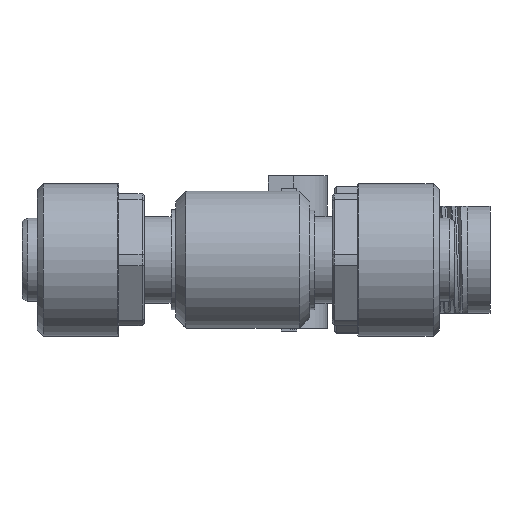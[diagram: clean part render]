
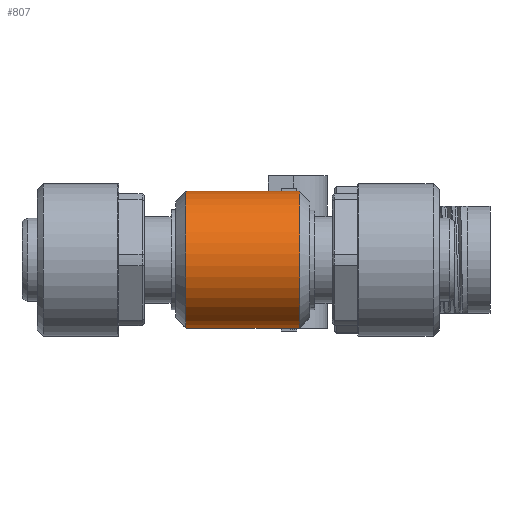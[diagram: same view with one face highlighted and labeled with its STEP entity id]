
A CAD part, left-side view. The second image highlights one B-rep face of the part: STEP entity #807.
In plain terms, the highlighted cylindrical face has radius 6.75 mm (diameter 13.5 mm), a partial arc.
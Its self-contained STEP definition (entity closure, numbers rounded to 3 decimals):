
#204=ELLIPSE('',#7572,9.546,6.75);
#205=ELLIPSE('',#7580,9.546,6.75);
#207=ELLIPSE('',#7587,9.546,6.75);
#209=ELLIPSE('',#7594,9.546,6.75);
#807=ADVANCED_FACE('',(#1297),#1052,.T.);
#1052=CYLINDRICAL_SURFACE('',#7595,6.75);
#1297=FACE_OUTER_BOUND('',#1734,.T.);
#1734=EDGE_LOOP('',(#3700,#3701,#3702,#3703,#3704,#3705,#3706,#3707,#3708,
#3709,#3710,#3711,#3712,#3713,#3714,#3715,#3716,#3717,#3718,#3719));
#2367=CIRCLE('',#7591,6.75);
#2368=CIRCLE('',#7593,6.75);
#3700=ORIENTED_EDGE('',*,*,#5593,.T.);
#3701=ORIENTED_EDGE('',*,*,#5955,.T.);
#3702=ORIENTED_EDGE('',*,*,#5970,.F.);
#3703=ORIENTED_EDGE('',*,*,#5943,.T.);
#3704=ORIENTED_EDGE('',*,*,#5589,.T.);
#3705=ORIENTED_EDGE('',*,*,#5935,.T.);
#3706=ORIENTED_EDGE('',*,*,#5585,.T.);
#3707=ORIENTED_EDGE('',*,*,#5971,.T.);
#3708=ORIENTED_EDGE('',*,*,#5581,.T.);
#3709=ORIENTED_EDGE('',*,*,#5972,.T.);
#3710=ORIENTED_EDGE('',*,*,#5577,.T.);
#3711=ORIENTED_EDGE('',*,*,#5963,.T.);
#3712=ORIENTED_EDGE('',*,*,#5969,.F.);
#3713=ORIENTED_EDGE('',*,*,#5973,.T.);
#3714=ORIENTED_EDGE('',*,*,#5573,.T.);
#3715=ORIENTED_EDGE('',*,*,#5974,.T.);
#3716=ORIENTED_EDGE('',*,*,#5569,.T.);
#3717=ORIENTED_EDGE('',*,*,#5975,.T.);
#3718=ORIENTED_EDGE('',*,*,#5565,.T.);
#3719=ORIENTED_EDGE('',*,*,#5976,.T.);
#4784=VERTEX_POINT('',#11202);
#4785=VERTEX_POINT('',#11203);
#4788=VERTEX_POINT('',#11211);
#4789=VERTEX_POINT('',#11212);
#4792=VERTEX_POINT('',#11220);
#4793=VERTEX_POINT('',#11221);
#4796=VERTEX_POINT('',#11229);
#4797=VERTEX_POINT('',#11230);
#4800=VERTEX_POINT('',#11238);
#4801=VERTEX_POINT('',#11239);
#4804=VERTEX_POINT('',#11247);
#4805=VERTEX_POINT('',#11248);
#4808=VERTEX_POINT('',#11256);
#4809=VERTEX_POINT('',#11257);
#4812=VERTEX_POINT('',#11265);
#4813=VERTEX_POINT('',#11266);
#5067=VERTEX_POINT('',#12526);
#5072=VERTEX_POINT('',#12553);
#5076=VERTEX_POINT('',#12577);
#5079=VERTEX_POINT('',#12589);
#5565=EDGE_CURVE('',#4784,#4785,#6385,.T.);
#5569=EDGE_CURVE('',#4788,#4789,#6387,.T.);
#5573=EDGE_CURVE('',#4792,#4793,#6389,.T.);
#5577=EDGE_CURVE('',#4796,#4797,#6391,.T.);
#5581=EDGE_CURVE('',#4800,#4801,#6393,.T.);
#5585=EDGE_CURVE('',#4804,#4805,#6395,.T.);
#5589=EDGE_CURVE('',#4808,#4809,#6397,.T.);
#5593=EDGE_CURVE('',#4812,#4813,#6399,.T.);
#5935=EDGE_CURVE('',#4809,#4804,#6596,.T.);
#5943=EDGE_CURVE('',#5067,#4808,#204,.T.);
#5955=EDGE_CURVE('',#4813,#5072,#205,.T.);
#5963=EDGE_CURVE('',#4797,#5076,#207,.T.);
#5969=EDGE_CURVE('',#5079,#5076,#2367,.T.);
#5970=EDGE_CURVE('',#5067,#5072,#2368,.T.);
#5971=EDGE_CURVE('',#4805,#4800,#6612,.T.);
#5972=EDGE_CURVE('',#4801,#4796,#6613,.T.);
#5973=EDGE_CURVE('',#5079,#4792,#209,.T.);
#5974=EDGE_CURVE('',#4793,#4788,#6614,.T.);
#5975=EDGE_CURVE('',#4789,#4784,#6615,.T.);
#5976=EDGE_CURVE('',#4785,#4812,#6616,.T.);
#6385=LINE('',#11201,#6855);
#6387=LINE('',#11210,#6857);
#6389=LINE('',#11219,#6859);
#6391=LINE('',#11228,#6861);
#6393=LINE('',#11237,#6863);
#6395=LINE('',#11246,#6865);
#6397=LINE('',#11255,#6867);
#6399=LINE('',#11264,#6869);
#6596=LINE('',#12513,#7066);
#6612=LINE('',#12593,#7082);
#6613=LINE('',#12594,#7083);
#6614=LINE('',#12596,#7084);
#6615=LINE('',#12597,#7085);
#6616=LINE('',#12598,#7086);
#6855=VECTOR('',#8418,1.);
#6857=VECTOR('',#8426,1.);
#6859=VECTOR('',#8434,1.);
#6861=VECTOR('',#8442,1.);
#6863=VECTOR('',#8450,1.);
#6865=VECTOR('',#8458,1.);
#6867=VECTOR('',#8466,1.);
#6869=VECTOR('',#8474,1.);
#7066=VECTOR('',#8897,1.);
#7082=VECTOR('',#8967,1.);
#7083=VECTOR('',#8968,1.);
#7084=VECTOR('',#8971,1.);
#7085=VECTOR('',#8972,1.);
#7086=VECTOR('',#8973,1.);
#7572=AXIS2_PLACEMENT_3D('',#12525,#8914,#8915);
#7580=AXIS2_PLACEMENT_3D('',#12554,#8936,#8937);
#7587=AXIS2_PLACEMENT_3D('',#12578,#8951,#8952);
#7591=AXIS2_PLACEMENT_3D('',#12590,#8961,#8962);
#7593=AXIS2_PLACEMENT_3D('',#12592,#8965,#8966);
#7594=AXIS2_PLACEMENT_3D('',#12595,#8969,#8970);
#7595=AXIS2_PLACEMENT_3D('',#12599,#8974,#8975);
#8418=DIRECTION('',(0.,-1.,0.));
#8426=DIRECTION('',(0.,-1.,0.));
#8434=DIRECTION('',(0.,-1.,0.));
#8442=DIRECTION('',(0.,1.,0.));
#8450=DIRECTION('',(0.,1.,0.));
#8458=DIRECTION('',(0.,1.,0.));
#8466=DIRECTION('',(0.,1.,0.));
#8474=DIRECTION('',(0.,-1.,0.));
#8897=DIRECTION('',(0.,1.,0.));
#8914=DIRECTION('',(0.,0.707,-0.707));
#8915=DIRECTION('',(0.,-0.707,-0.707));
#8936=DIRECTION('',(0.,0.707,0.707));
#8937=DIRECTION('',(0.,0.707,-0.707));
#8951=DIRECTION('',(0.,-0.707,-0.707));
#8952=DIRECTION('',(0.,0.707,-0.707));
#8961=DIRECTION('',(0.,1.,0.));
#8962=DIRECTION('',(0.,0.,-1.));
#8965=DIRECTION('',(0.,-1.,0.));
#8966=DIRECTION('',(0.,0.,-1.));
#8967=DIRECTION('',(0.,1.,0.));
#8968=DIRECTION('',(0.,1.,0.));
#8969=DIRECTION('',(0.,-0.707,0.707));
#8970=DIRECTION('',(0.,-0.707,-0.707));
#8971=DIRECTION('',(0.,-1.,0.));
#8972=DIRECTION('',(0.,-1.,0.));
#8973=DIRECTION('',(0.,-1.,0.));
#8974=DIRECTION('',(0.,-1.,0.));
#8975=DIRECTION('',(-1.,0.,0.));
#11201=CARTESIAN_POINT('',(-9.9,-5.3,-6.75));
#11202=CARTESIAN_POINT('',(-9.9,-5.3,-6.75));
#11203=CARTESIAN_POINT('',(-9.9,-7.3,-6.75));
#11210=CARTESIAN_POINT('',(-9.9,-2.3,-6.75));
#11211=CARTESIAN_POINT('',(-9.9,-2.3,-6.75));
#11212=CARTESIAN_POINT('',(-9.9,-4.3,-6.75));
#11219=CARTESIAN_POINT('',(-9.9,0.734,-6.75));
#11220=CARTESIAN_POINT('',(-9.9,0.734,-6.75));
#11221=CARTESIAN_POINT('',(-9.9,-1.3,-6.75));
#11228=CARTESIAN_POINT('',(-9.9,-1.3,6.75));
#11229=CARTESIAN_POINT('',(-9.9,-1.3,6.75));
#11230=CARTESIAN_POINT('',(-9.9,0.734,6.75));
#11237=CARTESIAN_POINT('',(-9.9,-4.3,6.75));
#11238=CARTESIAN_POINT('',(-9.9,-4.3,6.75));
#11239=CARTESIAN_POINT('',(-9.9,-2.3,6.75));
#11246=CARTESIAN_POINT('',(-9.9,-7.3,6.75));
#11247=CARTESIAN_POINT('',(-9.9,-7.3,6.75));
#11248=CARTESIAN_POINT('',(-9.9,-5.3,6.75));
#11255=CARTESIAN_POINT('',(-9.9,-10.334,6.75));
#11256=CARTESIAN_POINT('',(-9.9,-10.334,6.75));
#11257=CARTESIAN_POINT('',(-9.9,-8.3,6.75));
#11264=CARTESIAN_POINT('',(-9.9,-8.3,-6.75));
#11265=CARTESIAN_POINT('',(-9.9,-8.3,-6.75));
#11266=CARTESIAN_POINT('',(-9.9,-10.334,-6.75));
#12513=CARTESIAN_POINT('',(-9.9,-8.3,6.75));
#12525=CARTESIAN_POINT('',(-9.9,-17.084,0.));
#12526=CARTESIAN_POINT('',(-10.84,-10.4,6.684));
#12553=CARTESIAN_POINT('',(-10.84,-10.4,-6.684));
#12554=CARTESIAN_POINT('',(-9.9,-17.084,0.));
#12577=CARTESIAN_POINT('',(-10.84,0.8,6.684));
#12578=CARTESIAN_POINT('',(-9.9,7.484,0.));
#12589=CARTESIAN_POINT('',(-10.84,0.8,-6.684));
#12590=CARTESIAN_POINT('',(-9.9,0.8,0.));
#12592=CARTESIAN_POINT('',(-9.9,-10.4,0.));
#12593=CARTESIAN_POINT('',(-9.9,-5.3,6.75));
#12594=CARTESIAN_POINT('',(-9.9,-2.3,6.75));
#12595=CARTESIAN_POINT('',(-9.9,7.484,0.));
#12596=CARTESIAN_POINT('',(-9.9,-1.3,-6.75));
#12597=CARTESIAN_POINT('',(-9.9,-4.3,-6.75));
#12598=CARTESIAN_POINT('',(-9.9,-7.3,-6.75));
#12599=CARTESIAN_POINT('',(-9.9,1.8,0.));
